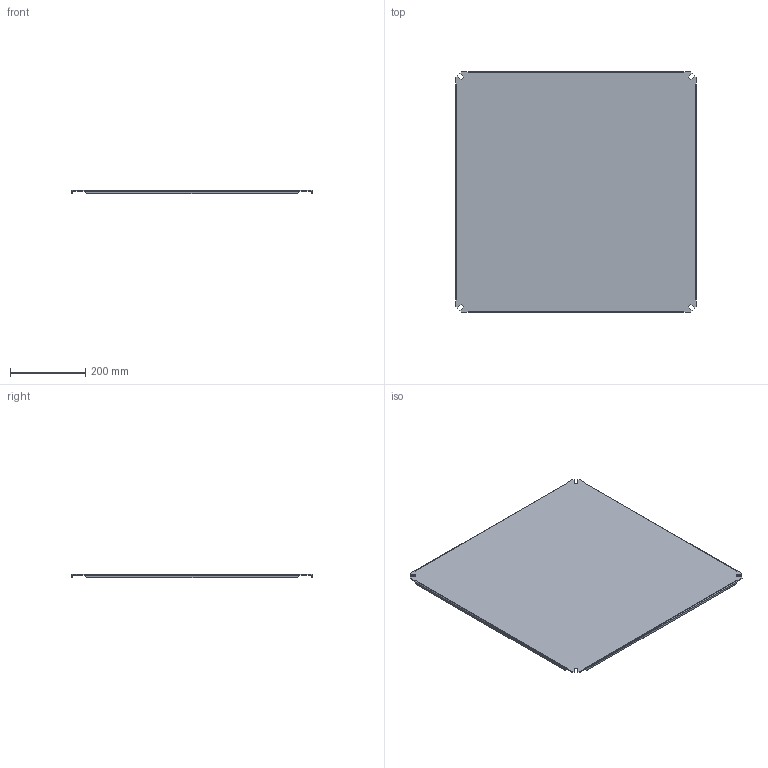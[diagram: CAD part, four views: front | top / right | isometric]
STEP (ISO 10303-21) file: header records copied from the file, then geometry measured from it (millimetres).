
FILE_DESCRIPTION (( 'STEP AP203' ), '1' );
FILE_NAME ('UMPZ7575_V1.step', '2013-05-29T10:55:38', ( '' ), ( '' ), 'SwSTEP 2.0', 'SolidWorks 2011', '' );
FILE_SCHEMA (( 'CONFIG_CONTROL_DESIGN' ));
Length unit declared in the file: millimetre
Products named in the file (1): UMPZ7575_V1
Bounding box: 640 x 640 x 9 mm (x, y, z)
Volume: 845167.5 mm3; surface area: 850572.7 mm2
Topology: 1 solids, 1 shells, 74 faces, 184 edges, 112 vertices
Faces by surface type: plane 58, bspline 8, cylinder 8
Entity records: 2621 total; most frequent: CARTESIAN_POINT 859, ORIENTED_EDGE 368, DIRECTION 302, EDGE_CURVE 184, LINE 168, VECTOR 168, VERTEX_POINT 112, EDGE_LOOP 74
